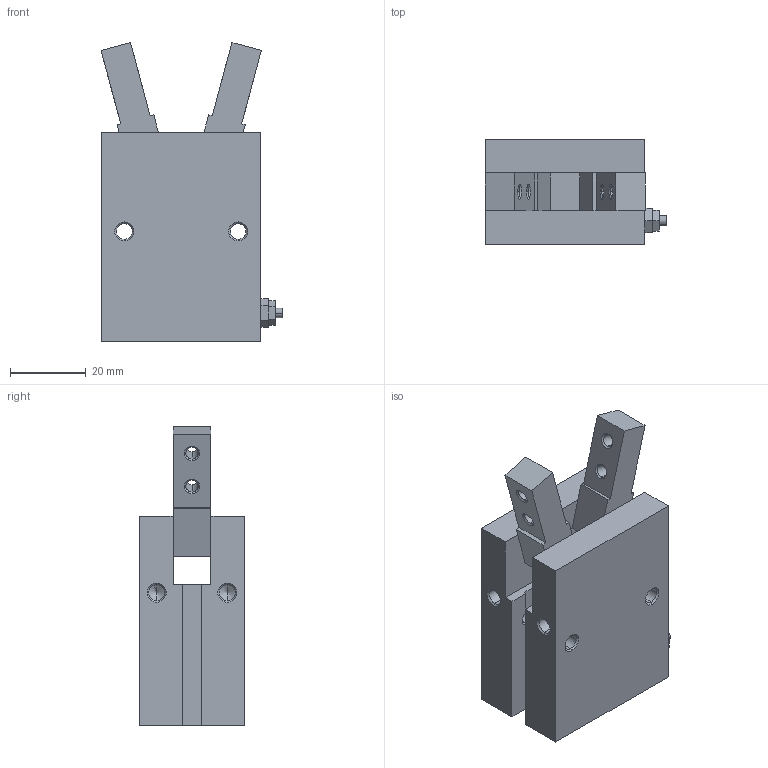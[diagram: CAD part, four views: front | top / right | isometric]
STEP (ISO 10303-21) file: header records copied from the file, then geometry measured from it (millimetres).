
FILE_DESCRIPTION (( 'STEP AP214' ), '1' );
FILE_NAME ('GMHC2-20D.STEP', '2019-11-12T01:16:46', ( '微软用户' ), ( '微软中国' ), 'SwSTEP 2.0', 'SolidWorks 2016', '' );
FILE_SCHEMA (( 'AUTOMOTIVE_DESIGN' ));
Length unit declared in the file: millimetre
Products named in the file (1): GMHC2-20D
Bounding box: 47.91 x 27.6 x 78.78 mm (x, y, z)
Surface area: 17191.2 mm2 (no closed solid volume)
Topology: 0 solids, 3 shells, 166 faces, 466 edges, 292 vertices
Faces by surface type: plane 70, cylinder 48, cone 48
Entity records: 5947 total; most frequent: CARTESIAN_POINT 1633, DIRECTION 910, ORIENTED_EDGE 872, EDGE_CURVE 454, AXIS2_PLACEMENT_3D 331, VERTEX_POINT 292, LINE 248, VECTOR 248
